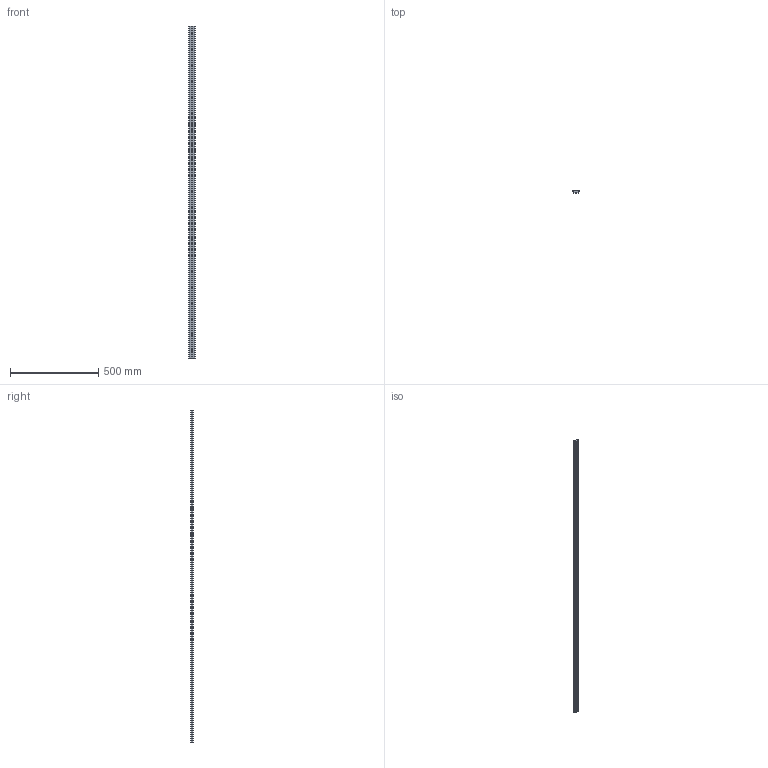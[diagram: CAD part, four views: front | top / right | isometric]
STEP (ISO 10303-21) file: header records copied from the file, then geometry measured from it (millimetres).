
FILE_DESCRIPTION(('STEP AP203'),'1');
FILE_NAME('slide_ns35l1886p2.stp','2022-07-01T04:27:41',('TraceParts'),('TraceParts S.A.'),'Spatial InterOp 3D',' ',' ');
FILE_SCHEMA(('CONFIG_CONTROL_DESIGN'));
Length unit declared in the file: millimetre
Products named in the file (1): 1
Bounding box: 34.61 x 12.66 x 1886 mm (x, y, z)
Volume: 561451.9 mm3; surface area: 186786.8 mm2
Topology: 1 solids, 1 shells, 143 faces, 360 edges, 240 vertices
Faces by surface type: cylinder 102, plane 41
Entity records: 4526 total; most frequent: DIRECTION 852, CARTESIAN_POINT 744, ORIENTED_EDGE 720, EDGE_CURVE 360, AXIS2_PLACEMENT_3D 348, VERTEX_POINT 240, EDGE_LOOP 206, CIRCLE 204
